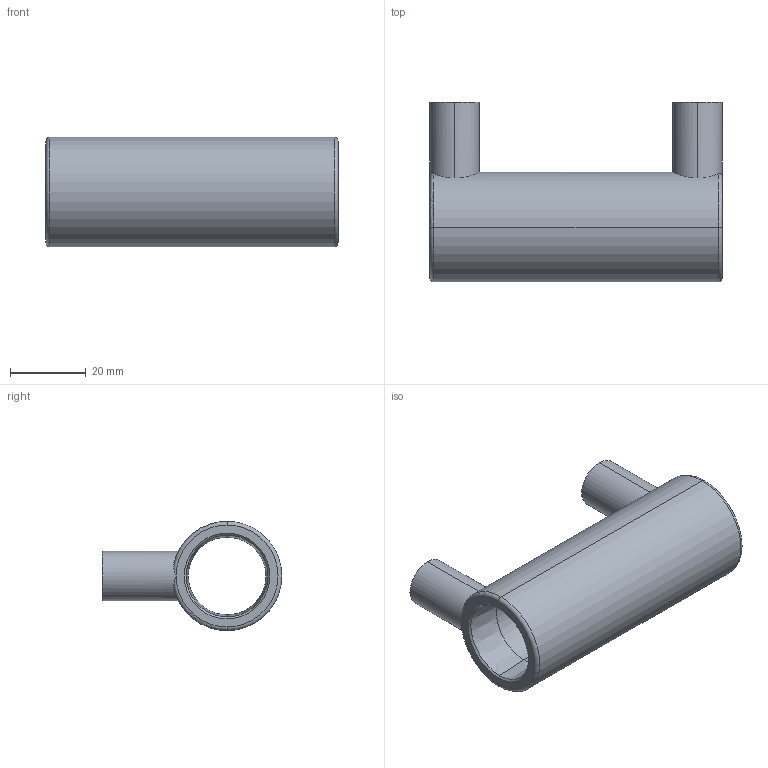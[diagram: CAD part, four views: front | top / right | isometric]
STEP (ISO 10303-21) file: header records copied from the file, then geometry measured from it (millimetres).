
FILE_DESCRIPTION (( 'STEP AP214' ), '1' );
FILE_NAME ('CBKHA20.STEP', '2018-09-19T12:55:07', ( '' ), ( '' ), 'SwSTEP 2.0', 'SolidWorks 2017', '' );
FILE_SCHEMA (( 'AUTOMOTIVE_DESIGN' ));
Length unit declared in the file: millimetre
Products named in the file (1): CBKHA20
Bounding box: 77 x 47.35 x 28.85 mm (x, y, z)
Volume: 27355.8 mm3; surface area: 15551 mm2
Topology: 1 solids, 1 shells, 64 faces, 134 edges, 78 vertices
Faces by surface type: cone 20, cylinder 20, torus 14, plane 10
Entity records: 2017 total; most frequent: CARTESIAN_POINT 456, DIRECTION 338, ORIENTED_EDGE 268, AXIS2_PLACEMENT_3D 149, EDGE_CURVE 134, CIRCLE 84, VERTEX_POINT 78, EDGE_LOOP 72
